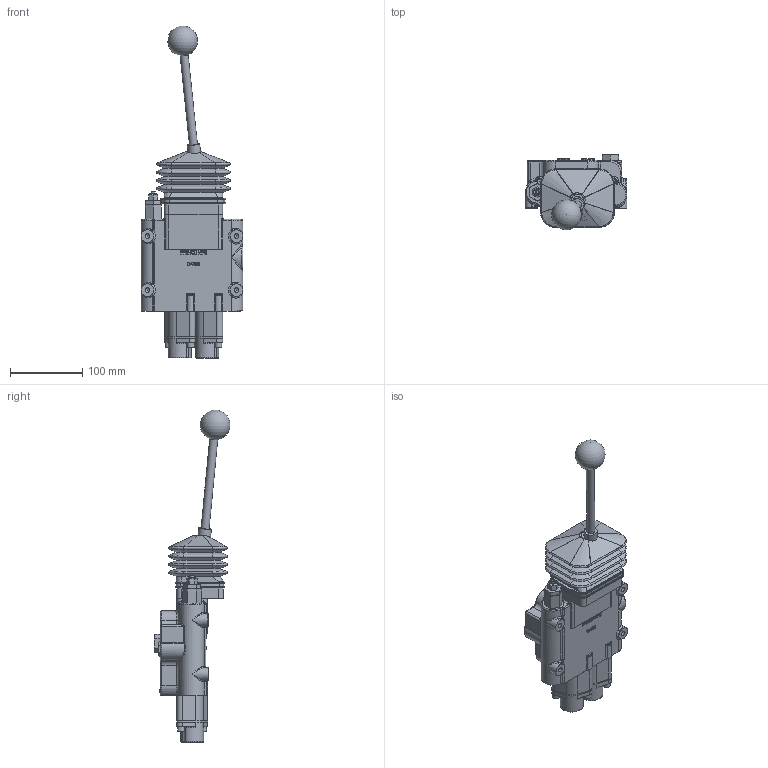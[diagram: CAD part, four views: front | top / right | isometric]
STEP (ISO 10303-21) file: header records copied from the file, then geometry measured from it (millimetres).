
FILE_DESCRIPTION((''),'2;1');
FILE_NAME('C:\Vault\Workspace\z_ShellModels\LV_LS30_RD25_RD41\LVS1AGR5A3_Shell.stp','2012-03-19T10:15:20',('PetersW'),(''),'Autodesk Inventor 2012','Autodesk Inventor 2012','');
FILE_SCHEMA(('AUTOMOTIVE_DESIGN { 1 0 10303 214 1 1 1 1 }'));
Length unit declared in the file: inch
Products named in the file (1): Part3
Bounding box: 140.51 x 104.79 x 458.66 mm (x, y, z)
Volume: 1480304.9 mm3; surface area: 216217.3 mm2
Topology: 1 solids, 31 shells, 1399 faces, 3388 edges, 2065 vertices
Faces by surface type: plane 560, cylinder 308, bspline 273, cone 138, torus 118, sphere 2
Full cylindrical faces by diameter (mm): 3.175 x2, 4.75 x4, 4.978 x10, 5.067 x1, 6.096 x1, 6.35 x4, 6.401 x3, 6.528 x1, 6.731 x12, 6.909 x3, 7.137 x1, 7.925 x6, 7.938 x1, 8.738 x2, 9.525 x4, 11.112 x1, 11.125 x3, 12.304 x2, 12.7 x3, 12.929 x4, 13.462 x3, 15.875 x2, 15.9 x3, 16.764 x3, 17.066 x1, 17.45 x1, 17.475 x4, 17.501 x4, 21.438 x2, 24.613 x2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
Entity records: 46558 total; most frequent: CARTESIAN_POINT 15717, ORIENTED_EDGE 6158, DIRECTION 5589, EDGE_CURVE 3079, AXIS2_PLACEMENT_3D 2115, VERTEX_POINT 1973, EDGE_LOOP 1662, FACE_OUTER_BOUND 1398
